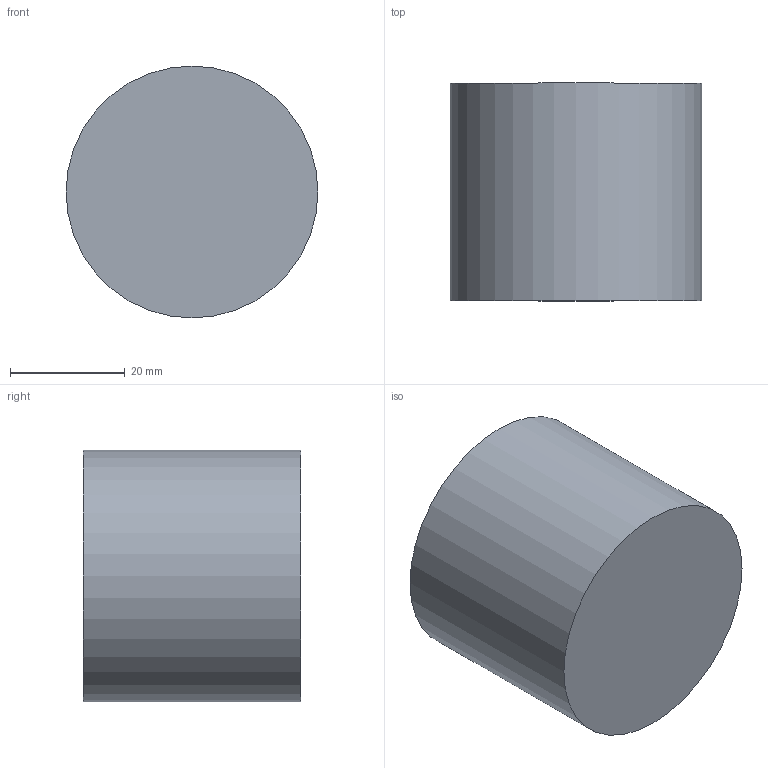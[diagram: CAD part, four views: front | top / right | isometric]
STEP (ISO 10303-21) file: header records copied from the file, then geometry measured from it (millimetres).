
FILE_DESCRIPTION(('Open CASCADE Model'),'2;1');
FILE_NAME('Open CASCADE Shape Model','2026-10-04T01:02:31',('Author'),( 'Open CASCADE'),'Open CASCADE STEP processor 8.0','Open CASCADE 8.0' ,'Unknown');
FILE_SCHEMA(('AUTOMOTIVE_DESIGN { 1 0 10303 214 1 1 1 1 }'));
Length unit declared in the file: millimetre
Products named in the file (1): Open CASCADE STEP translator 8.0 257
Bounding box: 44 x 38 x 44 mm (x, y, z)
Volume: 57780.2 mm3; surface area: 8293.8 mm2
Topology: 1 solids, 1 shells, 3 faces, 3 edges, 2 vertices
Faces by surface type: plane 2, cylinder 1
Full cylindrical faces by diameter (mm): 44 x1
Entity records: 108 total; most frequent: DIRECTION 19, CARTESIAN_POINT 15, AXIS2_PLACEMENT_3D 6, ORIENTED_EDGE 6, PCURVE 6, DEFINITIONAL_REPRESENTATION 6, LINE 5, VECTOR 5
